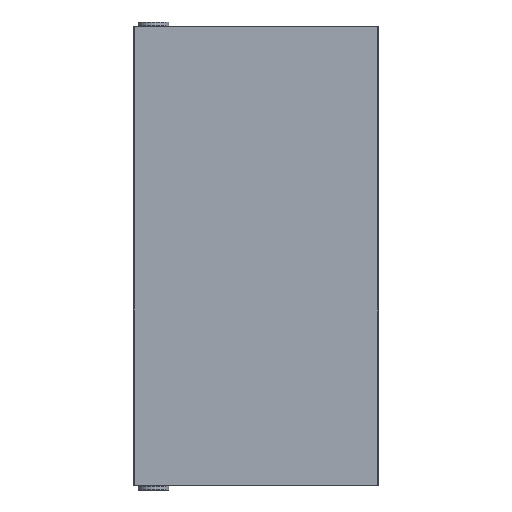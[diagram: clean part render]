
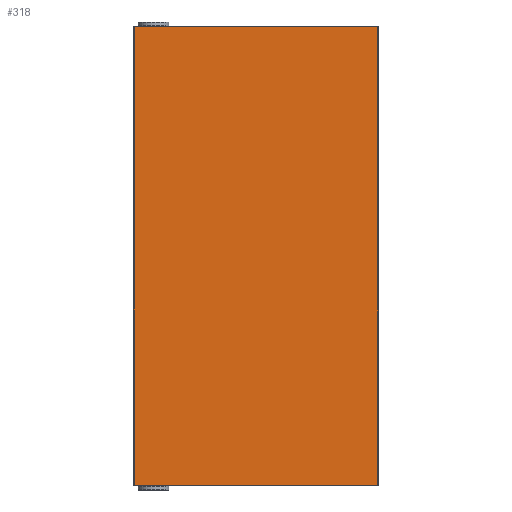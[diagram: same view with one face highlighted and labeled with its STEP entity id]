
A CAD part, top view. The second image highlights one B-rep face of the part: STEP entity #318.
In plain terms, the highlighted planar face has unit normal (-0.001, 0, 1).
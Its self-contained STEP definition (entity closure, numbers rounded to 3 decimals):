
#39 = VERTEX_POINT ( 'NONE', #971 ) ;
#41 = EDGE_LOOP ( 'NONE', ( #943, #2131, #144, #1074 ) ) ;
#52 = VERTEX_POINT ( 'NONE', #487 ) ;
#144 = ORIENTED_EDGE ( 'NONE', *, *, #2084, .T. ) ;
#156 = VECTOR ( 'NONE', #1085, 1000. ) ;
#215 = DIRECTION ( 'NONE',  ( 1., 0., 0. ) ) ;
#223 = EDGE_CURVE ( 'NONE', #644, #52, #391, .T. ) ;
#318 = ADVANCED_FACE ( 'NONE', ( #1493 ), #1343, .T. ) ;
#335 = DIRECTION ( 'NONE',  ( 1., 0., 0. ) ) ;
#391 = LINE ( 'NONE', #891, #156 ) ;
#472 = EDGE_CURVE ( 'NONE', #39, #644, #1135, .T. ) ;
#487 = CARTESIAN_POINT ( 'NONE',  ( -159.5, 300., 0. ) ) ;
#625 = VECTOR ( 'NONE', #215, 1000. ) ;
#644 = VERTEX_POINT ( 'NONE', #2026 ) ;
#740 = DIRECTION ( 'NONE',  ( 0., -1., 0. ) ) ;
#775 = CARTESIAN_POINT ( 'NONE',  ( 159.5, 0., 0. ) ) ;
#847 = EDGE_CURVE ( 'NONE', #52, #1857, #1262, .T. ) ;
#855 = DIRECTION ( 'NONE',  ( 0., 0., 1. ) ) ;
#891 = CARTESIAN_POINT ( 'NONE',  ( -160., 300., 0. ) ) ;
#943 = ORIENTED_EDGE ( 'NONE', *, *, #223, .T. ) ;
#971 = CARTESIAN_POINT ( 'NONE',  ( 159.5, -300., 0. ) ) ;
#985 = DIRECTION ( 'NONE',  ( 0., 1., 0. ) ) ;
#1072 = LINE ( 'NONE', #1609, #625 ) ;
#1074 = ORIENTED_EDGE ( 'NONE', *, *, #472, .T. ) ;
#1085 = DIRECTION ( 'NONE',  ( -1., 0., 0. ) ) ;
#1135 = LINE ( 'NONE', #775, #1218 ) ;
#1218 = VECTOR ( 'NONE', #985, 1000. ) ;
#1262 = LINE ( 'NONE', #2063, #1834 ) ;
#1286 = AXIS2_PLACEMENT_3D ( 'NONE', #1998, #855, #335 ) ;
#1343 = PLANE ( 'NONE',  #1286 ) ;
#1493 = FACE_OUTER_BOUND ( 'NONE', #41, .T. ) ;
#1609 = CARTESIAN_POINT ( 'NONE',  ( -160., -300., 0. ) ) ;
#1834 = VECTOR ( 'NONE', #740, 1000. ) ;
#1857 = VERTEX_POINT ( 'NONE', #1895 ) ;
#1895 = CARTESIAN_POINT ( 'NONE',  ( -159.5, -300., 0. ) ) ;
#1998 = CARTESIAN_POINT ( 'NONE',  ( 0., 0., 0. ) ) ;
#2026 = CARTESIAN_POINT ( 'NONE',  ( 159.5, 300., 0. ) ) ;
#2063 = CARTESIAN_POINT ( 'NONE',  ( -159.5, 0., 0. ) ) ;
#2084 = EDGE_CURVE ( 'NONE', #1857, #39, #1072, .T. ) ;
#2131 = ORIENTED_EDGE ( 'NONE', *, *, #847, .T. ) ;
